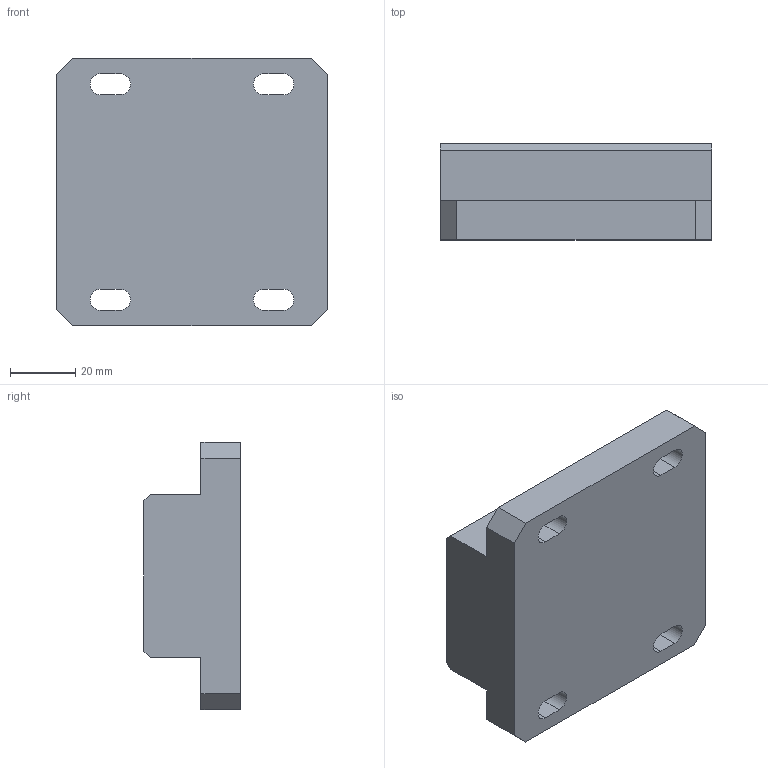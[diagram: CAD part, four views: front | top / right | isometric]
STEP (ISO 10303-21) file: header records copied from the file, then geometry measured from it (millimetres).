
FILE_DESCRIPTION (( 'STEP AP214' ), '1' );
FILE_NAME ('GZ30.04_V1肘夹垫块.STEP', '2021-06-03T06:21:11', ( '微软中国' ), ( 'Microsoft' ), 'SwSTEP 2.0', 'SolidWorks 2017', '' );
FILE_SCHEMA (( 'AUTOMOTIVE_DESIGN' ));
Length unit declared in the file: millimetre
Products named in the file (1): GZ30.04_V1紵標菜輸
Bounding box: 83 x 29.5 x 82 mm (x, y, z)
Volume: 148649 mm3; surface area: 23823.5 mm2
Topology: 1 solids, 1 shells, 48 faces, 130 edges, 80 vertices
Faces by surface type: plane 24, cylinder 16, cone 8
Entity records: 1584 total; most frequent: DIRECTION 252, CARTESIAN_POINT 251, ORIENTED_EDGE 244, EDGE_CURVE 122, VECTOR 90, LINE 90, AXIS2_PLACEMENT_3D 81, VERTEX_POINT 80
